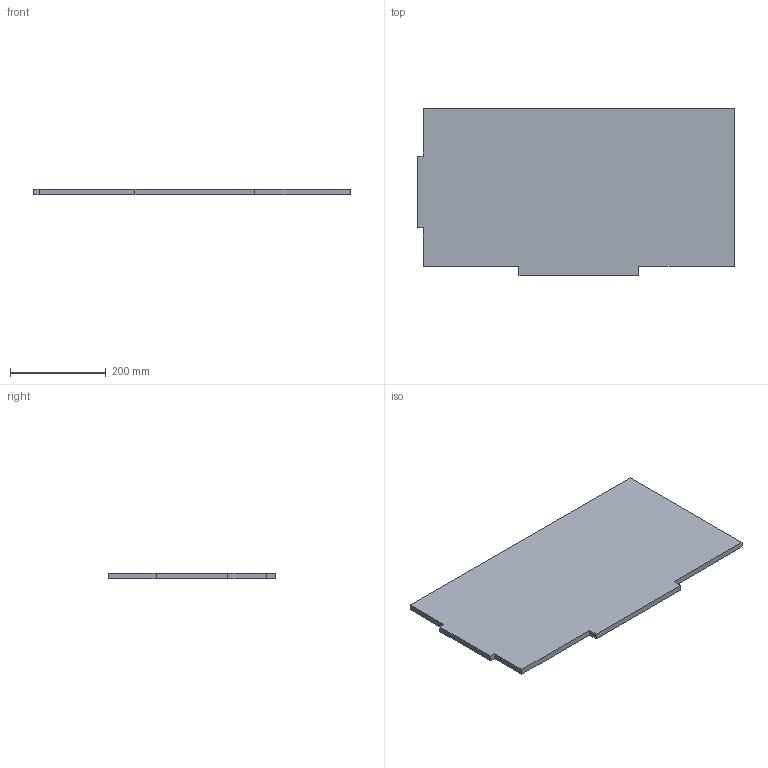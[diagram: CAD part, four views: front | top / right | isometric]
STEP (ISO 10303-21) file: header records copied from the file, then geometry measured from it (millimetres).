
FILE_DESCRIPTION (( 'STEP AP214' ), '1' );
FILE_NAME ('n ds.STEP', '2024-10-17T16:05:38', ( '' ), ( '' ), 'SwSTEP 2.0', 'SolidWorks 2020', '' );
FILE_SCHEMA (( 'AUTOMOTIVE_DESIGN' ));
Length unit declared in the file: millimetre
Products named in the file (1): n ds
Bounding box: 662 x 350 x 12 mm (x, y, z)
Volume: 2656458 mm3; surface area: 467031 mm2
Topology: 1 solids, 1 shells, 14 faces, 36 edges, 24 vertices
Faces by surface type: plane 14
Entity records: 454 total; most frequent: CARTESIAN_POINT 75, ORIENTED_EDGE 72, DIRECTION 66, LINE 36, EDGE_CURVE 36, VECTOR 36, VERTEX_POINT 24, AXIS2_PLACEMENT_3D 15
